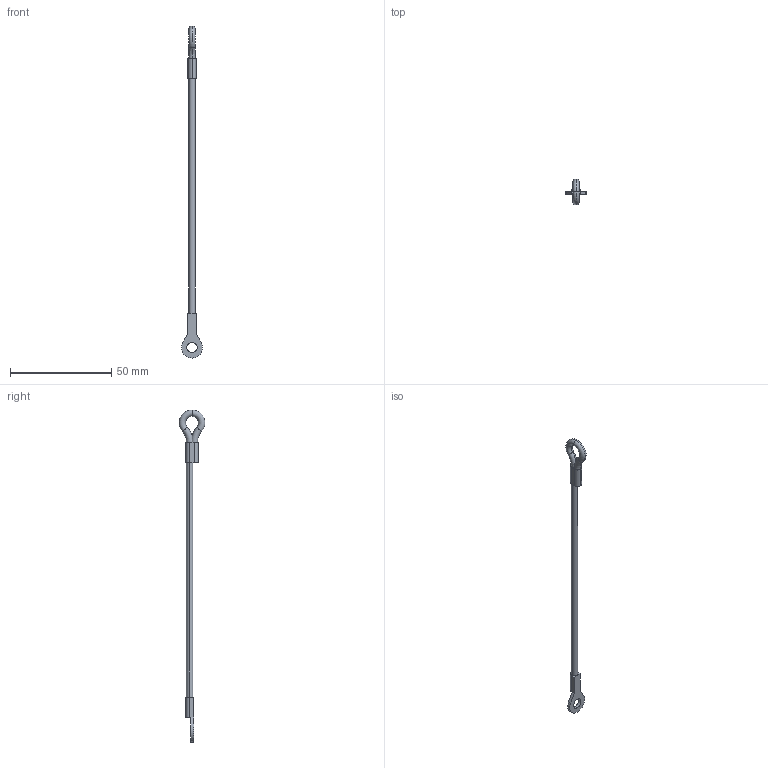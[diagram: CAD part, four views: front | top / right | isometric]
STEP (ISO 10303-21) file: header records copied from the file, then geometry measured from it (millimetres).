
FILE_DESCRIPTION (( 'STEP AP203' ), '1' );
FILE_NAME ('LA1075.I06-152C1.step', '2026-03-23T16:43:24', ( '' ), ( '' ), 'SwSTEP 2.0', 'SolidWorks 2019', '' );
FILE_SCHEMA (( 'CONFIG_CONTROL_DESIGN' ));
Length unit declared in the file: millimetre
Products named in the file (1): LA1075.I06-152C1
Bounding box: 10.41 x 12.75 x 164 mm (x, y, z)
Volume: 1676.5 mm3; surface area: 2078.8 mm2
Topology: 1 solids, 1 shells, 30 faces, 72 edges, 45 vertices
Faces by surface type: plane 12, cylinder 10, torus 8
Entity records: 993 total; most frequent: CARTESIAN_POINT 178, DIRECTION 170, ORIENTED_EDGE 144, EDGE_CURVE 72, AXIS2_PLACEMENT_3D 69, VERTEX_POINT 45, CIRCLE 38, EDGE_LOOP 35
